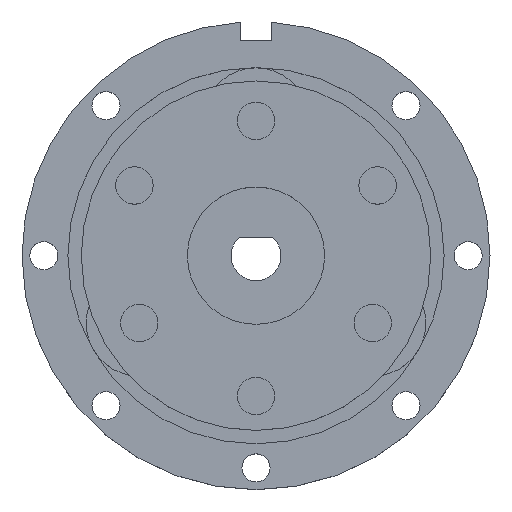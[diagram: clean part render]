
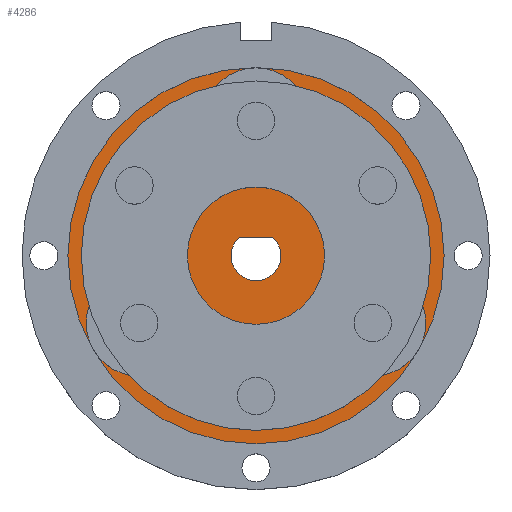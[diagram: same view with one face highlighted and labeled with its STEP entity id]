
A CAD part, top view. The second image highlights one B-rep face of the part: STEP entity #4286.
In plain terms, the highlighted planar face has unit normal (0, 0, 1).
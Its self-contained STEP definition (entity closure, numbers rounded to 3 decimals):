
#192 = CIRCLE ( 'NONE', #5006, 8.5 ) ;
#213 = AXIS2_PLACEMENT_3D ( 'NONE', #3192, #8626, #4576 ) ;
#235 = EDGE_CURVE ( 'NONE', #6852, #1807, #6813, .T. ) ;
#339 = VERTEX_POINT ( 'NONE', #7256 ) ;
#426 = FACE_BOUND ( 'NONE', #3933, .T. ) ;
#452 = EDGE_CURVE ( 'NONE', #339, #8546, #4527, .T. ) ;
#481 = CIRCLE ( 'NONE', #6601, 4. ) ;
#510 = CARTESIAN_POINT ( 'NONE',  ( -30.15, 0., 1.8 ) ) ;
#640 = CIRCLE ( 'NONE', #2745, 30.15 ) ;
#692 = CARTESIAN_POINT ( 'NONE',  ( -18.706, -10.8, 1.8 ) ) ;
#694 = DIRECTION ( 'NONE',  ( 1., 0., 0. ) ) ;
#737 = CARTESIAN_POINT ( 'NONE',  ( 0., 21.6, 1.8 ) ) ;
#953 = EDGE_LOOP ( 'NONE', ( #6470, #7557, #6424, #3098 ) ) ;
#1052 = AXIS2_PLACEMENT_3D ( 'NONE', #4979, #6203, #7661 ) ;
#1106 = ORIENTED_EDGE ( 'NONE', *, *, #1498, .F. ) ;
#1166 = DIRECTION ( 'NONE',  ( -0.5, -0.866, 0. ) ) ;
#1470 = CARTESIAN_POINT ( 'NONE',  ( -2.646, 3., 1.8 ) ) ;
#1480 = AXIS2_PLACEMENT_3D ( 'NONE', #5686, #3216, #8361 ) ;
#1498 = EDGE_CURVE ( 'NONE', #1840, #4206, #6559, .T. ) ;
#1576 = CARTESIAN_POINT ( 'NONE',  ( -8.5, 21.6, 1.8 ) ) ;
#1738 = DIRECTION ( 'NONE',  ( 1., 0., 0. ) ) ;
#1792 = DIRECTION ( 'NONE',  ( 1., 0., 0. ) ) ;
#1807 = VERTEX_POINT ( 'NONE', #3743 ) ;
#1840 = VERTEX_POINT ( 'NONE', #1954 ) ;
#1954 = CARTESIAN_POINT ( 'NONE',  ( -22.956, -3.439, 1.8 ) ) ;
#1968 = ORIENTED_EDGE ( 'NONE', *, *, #4283, .T. ) ;
#2030 = DIRECTION ( 'NONE',  ( 0., 0., 1. ) ) ;
#2049 = VERTEX_POINT ( 'NONE', #1576 ) ;
#2113 = CARTESIAN_POINT ( 'NONE',  ( 22.956, -3.439, 1.8 ) ) ;
#2121 = ORIENTED_EDGE ( 'NONE', *, *, #7024, .F. ) ;
#2283 = DIRECTION ( 'NONE',  ( -0.5, 0.866, 0. ) ) ;
#2309 = DIRECTION ( 'NONE',  ( 1., 0., 0. ) ) ;
#2394 = CARTESIAN_POINT ( 'NONE',  ( 0., 21.6, 1.8 ) ) ;
#2454 = DIRECTION ( 'NONE',  ( 1., 0., 0. ) ) ;
#2610 = LINE ( 'NONE', #6013, #8310 ) ;
#2642 = DIRECTION ( 'NONE',  ( 0., 0., 1. ) ) ;
#2745 = AXIS2_PLACEMENT_3D ( 'NONE', #3123, #2957, #2454 ) ;
#2785 = EDGE_CURVE ( 'NONE', #2049, #2803, #192, .T. ) ;
#2803 = VERTEX_POINT ( 'NONE', #6797 ) ;
#2915 = FACE_BOUND ( 'NONE', #5964, .T. ) ;
#2957 = DIRECTION ( 'NONE',  ( 0., 0., 1. ) ) ;
#2962 = CIRCLE ( 'NONE', #7951, 8.5 ) ;
#2980 = ORIENTED_EDGE ( 'NONE', *, *, #235, .T. ) ;
#3030 = CIRCLE ( 'NONE', #1052, 4. ) ;
#3076 = ORIENTED_EDGE ( 'NONE', *, *, #2785, .F. ) ;
#3098 = ORIENTED_EDGE ( 'NONE', *, *, #452, .F. ) ;
#3123 = CARTESIAN_POINT ( 'NONE',  ( 0., 0., 1.8 ) ) ;
#3144 = DIRECTION ( 'NONE',  ( 0., 0., 1. ) ) ;
#3170 = CARTESIAN_POINT ( 'NONE',  ( -14.456, -18.161, 1.8 ) ) ;
#3174 = ORIENTED_EDGE ( 'NONE', *, *, #8622, .F. ) ;
#3192 = CARTESIAN_POINT ( 'NONE',  ( 18.706, -10.8, 1.8 ) ) ;
#3216 = DIRECTION ( 'NONE',  ( 0., 0., 1. ) ) ;
#3461 = DIRECTION ( 'NONE',  ( 1., 0., 0. ) ) ;
#3571 = DIRECTION ( 'NONE',  ( 0., 0., 1. ) ) ;
#3704 = EDGE_LOOP ( 'NONE', ( #3076, #3174 ) ) ;
#3743 = CARTESIAN_POINT ( 'NONE',  ( 30.15, 0., 1.8 ) ) ;
#3843 = FACE_OUTER_BOUND ( 'NONE', #8530, .T. ) ;
#3933 = EDGE_LOOP ( 'NONE', ( #8384, #1106 ) ) ;
#4063 = VERTEX_POINT ( 'NONE', #2113 ) ;
#4206 = VERTEX_POINT ( 'NONE', #3170 ) ;
#4283 = EDGE_CURVE ( 'NONE', #1807, #6852, #640, .T. ) ;
#4286 = ADVANCED_FACE ( 'NONE', ( #7747, #2915, #426, #6368, #3843 ), #6658, .T. ) ;
#4527 = CIRCLE ( 'NONE', #8087, 4. ) ;
#4576 = DIRECTION ( 'NONE',  ( -0.5, -0.866, 0. ) ) ;
#4598 = CARTESIAN_POINT ( 'NONE',  ( -18.706, -10.8, 1.8 ) ) ;
#4684 = DIRECTION ( 'NONE',  ( 0., 0., 1. ) ) ;
#4697 = AXIS2_PLACEMENT_3D ( 'NONE', #4598, #4684, #6032 ) ;
#4723 = CIRCLE ( 'NONE', #6860, 8.5 ) ;
#4743 = CIRCLE ( 'NONE', #213, 8.5 ) ;
#4825 = CARTESIAN_POINT ( 'NONE',  ( 2.646, 3., 1.8 ) ) ;
#4979 = CARTESIAN_POINT ( 'NONE',  ( 0., 0., 1.8 ) ) ;
#4999 = EDGE_CURVE ( 'NONE', #7045, #339, #3030, .T. ) ;
#5006 = AXIS2_PLACEMENT_3D ( 'NONE', #737, #2642, #694 ) ;
#5105 = EDGE_CURVE ( 'NONE', #8546, #5843, #481, .T. ) ;
#5156 = ORIENTED_EDGE ( 'NONE', *, *, #5275, .F. ) ;
#5179 = CARTESIAN_POINT ( 'NONE',  ( 0., 0., 1.8 ) ) ;
#5275 = EDGE_CURVE ( 'NONE', #5871, #4063, #4743, .T. ) ;
#5301 = EDGE_CURVE ( 'NONE', #5843, #7045, #2610, .T. ) ;
#5341 = DIRECTION ( 'NONE',  ( -1., 0., 0. ) ) ;
#5354 = CARTESIAN_POINT ( 'NONE',  ( 18.706, -10.8, 1.8 ) ) ;
#5355 = AXIS2_PLACEMENT_3D ( 'NONE', #5354, #7270, #1166 ) ;
#5471 = CARTESIAN_POINT ( 'NONE',  ( 0., 0., 1.8 ) ) ;
#5673 = AXIS2_PLACEMENT_3D ( 'NONE', #5179, #7893, #1792 ) ;
#5686 = CARTESIAN_POINT ( 'NONE',  ( 0., 0., 1.8 ) ) ;
#5843 = VERTEX_POINT ( 'NONE', #4825 ) ;
#5871 = VERTEX_POINT ( 'NONE', #7778 ) ;
#5964 = EDGE_LOOP ( 'NONE', ( #2121, #5156 ) ) ;
#6013 = CARTESIAN_POINT ( 'NONE',  ( 2.646, 3., 1.8 ) ) ;
#6032 = DIRECTION ( 'NONE',  ( -0.5, 0.866, 0. ) ) ;
#6203 = DIRECTION ( 'NONE',  ( 0., 0., 1. ) ) ;
#6355 = CIRCLE ( 'NONE', #5355, 8.5 ) ;
#6368 = FACE_BOUND ( 'NONE', #3704, .T. ) ;
#6382 = CARTESIAN_POINT ( 'NONE',  ( 4., 0., 1.8 ) ) ;
#6419 = CARTESIAN_POINT ( 'NONE',  ( 0., 0., 1.8 ) ) ;
#6424 = ORIENTED_EDGE ( 'NONE', *, *, #5105, .F. ) ;
#6470 = ORIENTED_EDGE ( 'NONE', *, *, #4999, .F. ) ;
#6559 = CIRCLE ( 'NONE', #4697, 8.5 ) ;
#6601 = AXIS2_PLACEMENT_3D ( 'NONE', #6419, #3144, #2309 ) ;
#6658 = PLANE ( 'NONE',  #1480 ) ;
#6797 = CARTESIAN_POINT ( 'NONE',  ( 8.5, 21.6, 1.8 ) ) ;
#6813 = CIRCLE ( 'NONE', #5673, 30.15 ) ;
#6852 = VERTEX_POINT ( 'NONE', #510 ) ;
#6860 = AXIS2_PLACEMENT_3D ( 'NONE', #2394, #7838, #1738 ) ;
#7024 = EDGE_CURVE ( 'NONE', #4063, #5871, #6355, .T. ) ;
#7045 = VERTEX_POINT ( 'NONE', #1470 ) ;
#7256 = CARTESIAN_POINT ( 'NONE',  ( -4., 0., 1.8 ) ) ;
#7270 = DIRECTION ( 'NONE',  ( 0., 0., 1. ) ) ;
#7557 = ORIENTED_EDGE ( 'NONE', *, *, #5301, .F. ) ;
#7661 = DIRECTION ( 'NONE',  ( 1., 0., 0. ) ) ;
#7747 = FACE_BOUND ( 'NONE', #953, .T. ) ;
#7778 = CARTESIAN_POINT ( 'NONE',  ( 14.456, -18.161, 1.8 ) ) ;
#7838 = DIRECTION ( 'NONE',  ( 0., 0., 1. ) ) ;
#7891 = EDGE_CURVE ( 'NONE', #4206, #1840, #2962, .T. ) ;
#7893 = DIRECTION ( 'NONE',  ( 0., 0., 1. ) ) ;
#7951 = AXIS2_PLACEMENT_3D ( 'NONE', #692, #3571, #2283 ) ;
#8087 = AXIS2_PLACEMENT_3D ( 'NONE', #5471, #2030, #3461 ) ;
#8310 = VECTOR ( 'NONE', #5341, 1000. ) ;
#8361 = DIRECTION ( 'NONE',  ( 1., 0., 0. ) ) ;
#8384 = ORIENTED_EDGE ( 'NONE', *, *, #7891, .F. ) ;
#8530 = EDGE_LOOP ( 'NONE', ( #1968, #2980 ) ) ;
#8546 = VERTEX_POINT ( 'NONE', #6382 ) ;
#8622 = EDGE_CURVE ( 'NONE', #2803, #2049, #4723, .T. ) ;
#8626 = DIRECTION ( 'NONE',  ( 0., 0., 1. ) ) ;
